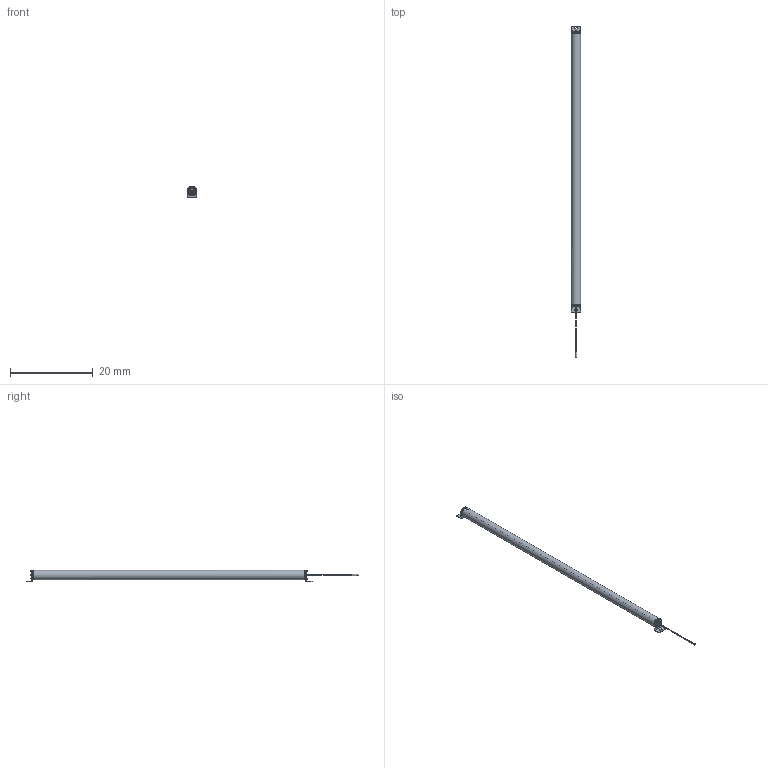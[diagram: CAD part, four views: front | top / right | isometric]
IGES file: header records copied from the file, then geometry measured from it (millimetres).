
Start section:  Autodesk DirectConnect version 7.0.27.0 ---- IGES version 5.3
Global section: file name: C:\ACADFILES\SS_PYLONS\CUSTOMER_FILES\SS-64-PYLON_3D_SMB_PT.iges; native system: Autodesk DirectConnect 7.0.27.0; preprocessor: 7.0.27.0; author: ENGINEERMAIN; organization: Unknown; date: 20150810.125916; units: millimetre
Bounding box: 2.26 x 80.01 x 2.75 mm (x, y, z)
Surface area: 1899.4 mm2 (no closed solid volume)
Topology: 0 solids, 0 shells, 772 faces, 3944 edges, 3944 vertices
Faces by surface type: bspline 772
